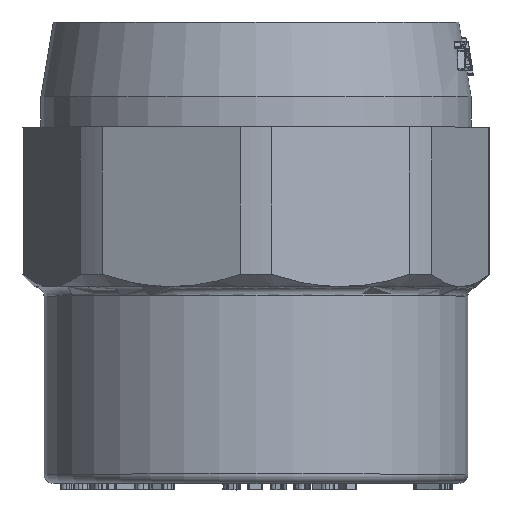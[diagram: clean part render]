
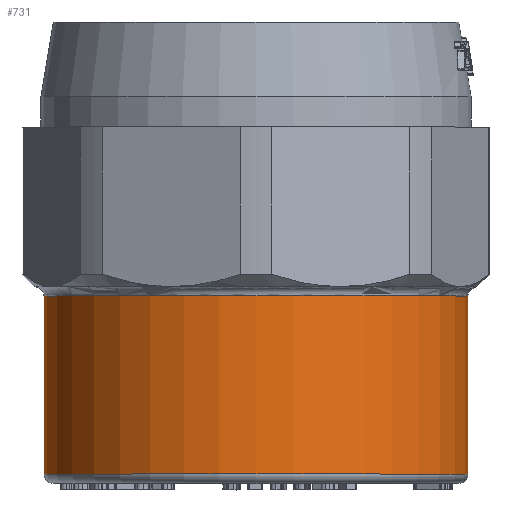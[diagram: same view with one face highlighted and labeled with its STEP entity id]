
A CAD part, top view. The second image highlights one B-rep face of the part: STEP entity #731.
In plain terms, the highlighted cylindrical face has radius 17.25 mm (diameter 34.5 mm), a full revolution.
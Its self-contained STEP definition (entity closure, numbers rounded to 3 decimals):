
#731=ADVANCED_FACE('',(#4294,#4296),#4298,.T.);
#4294=FACE_OUTER_BOUND('',#4295,.T.);
#4295=EDGE_LOOP('',(#10360));
#4296=FACE_OUTER_BOUND('',#4297,.T.);
#4297=EDGE_LOOP('',(#10361));
#4298=CYLINDRICAL_SURFACE('',#4299,17.25);
#4299=AXIS2_PLACEMENT_3D('',#4300,#4301,#4302);
#4300=CARTESIAN_POINT('',(0.,0.,0.));
#4301=DIRECTION('',(0.,1.,0.));
#4302=DIRECTION('',(-1.,0.,0.));
#10360=ORIENTED_EDGE('',*,*,#14335,.F.);
#10361=ORIENTED_EDGE('',*,*,#13454,.T.);
#13454=EDGE_CURVE('',#16214,#16214,#16215,.T.);
#14335=EDGE_CURVE('',#17537,#17537,#17538,.T.);
#16214=VERTEX_POINT('',#21085);
#16215=CIRCLE('',#21086,17.25);
#17537=VERTEX_POINT('',#24172);
#17538=CIRCLE('',#24173,17.25);
#21085=CARTESIAN_POINT('',(-17.25,0.75,0.));
#21086=AXIS2_PLACEMENT_3D('',#21087,#21088,#21089);
#21087=CARTESIAN_POINT('',(0.,0.75,0.));
#21088=DIRECTION('',(0.,1.,0.));
#21089=DIRECTION('',(-1.,0.,0.));
#24172=CARTESIAN_POINT('',(-17.25,15.25,0.));
#24173=AXIS2_PLACEMENT_3D('',#24174,#24175,#24176);
#24174=CARTESIAN_POINT('',(0.,15.25,0.));
#24175=DIRECTION('',(0.,1.,0.));
#24176=DIRECTION('',(-1.,0.,0.));
